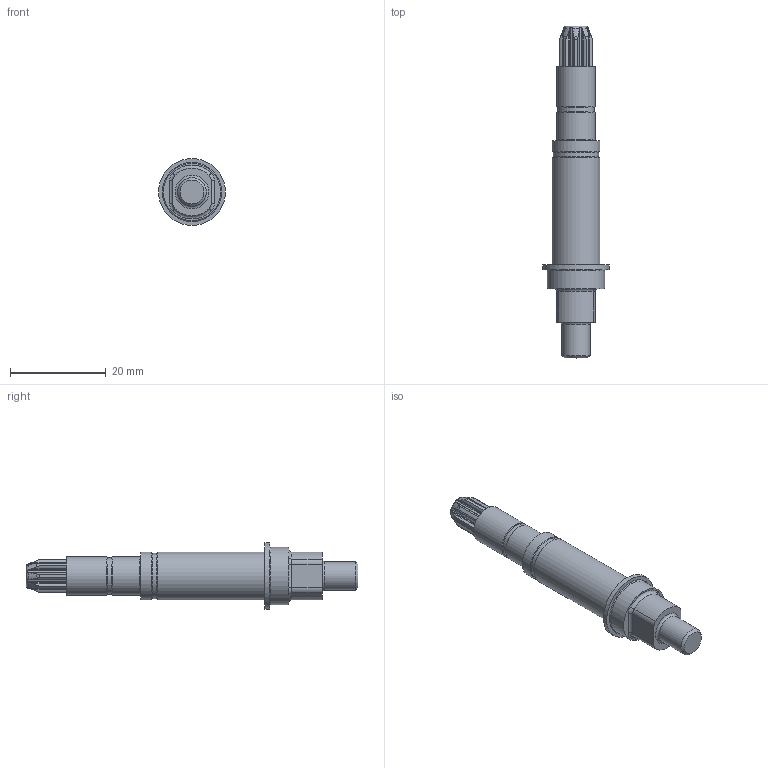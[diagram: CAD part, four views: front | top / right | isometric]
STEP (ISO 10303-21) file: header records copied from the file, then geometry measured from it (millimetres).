
FILE_DESCRIPTION(/* description */ (''),/* implementation_level */ '2;1');
FILE_NAME(/* name */ '花键驱动轴.stp',/* time_stamp */ '2026-08-24T13:04:19+08:00',/* author */ (''),/* organization */ (''),/* preprocessor_version */ 'ST-DEVELOPER v16.7',/* originating_system */ 'SIEMENS PLM Software NX 12.0',/* authorisation */ '');
FILE_SCHEMA (('AUTOMOTIVE_DESIGN { 1 0 10303 214 3 1 1 1 }'));
Length unit declared in the file: millimetre
Products named in the file (1): 花键驱动轴
Bounding box: 14 x 69.5 x 14 mm (x, y, z)
Volume: 4343.6 mm3; surface area: 2260.5 mm2
Topology: 1 solids, 1 shells, 126 faces, 331 edges, 217 vertices
Faces by surface type: cylinder 81, torus 22, plane 14, cone 9
Full cylindrical faces by diameter (mm): 6 x1, 7.6 x1, 8 x2, 9.55 x1, 10 x2, 12 x1, 14 x1
Entity records: 4208 total; most frequent: CARTESIAN_POINT 1125, DIRECTION 630, ORIENTED_EDGE 614, EDGE_CURVE 307, AXIS2_PLACEMENT_3D 276, VERTEX_POINT 211, EDGE_LOOP 154, CIRCLE 149
